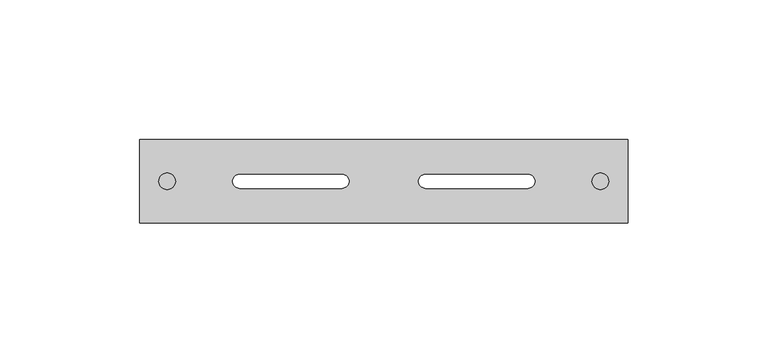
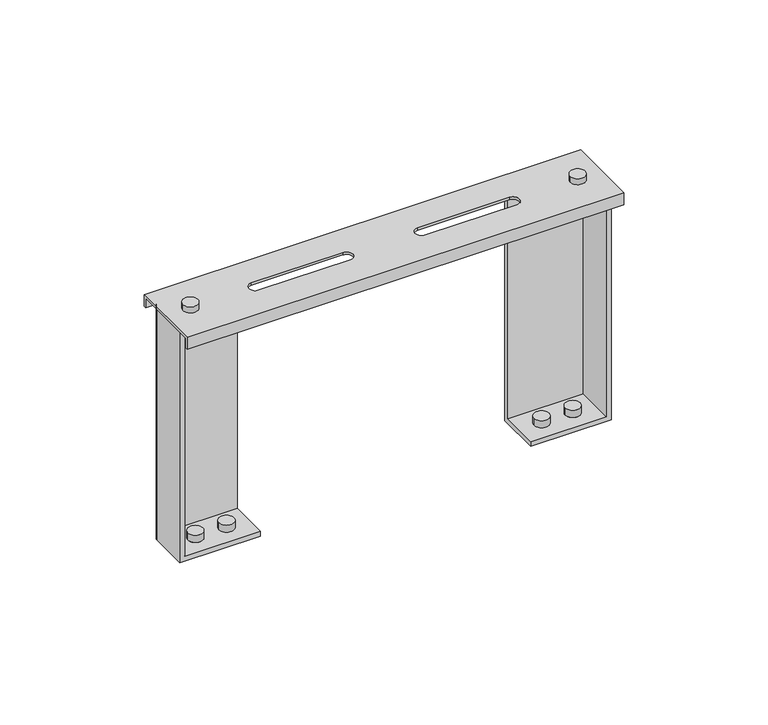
"""IFC4 building model written with IfcOpenShell, lengths in millimetres: cable carrier fitting geometry, CCT_Hyperline_FBTR_EFS_Опора_для_установки_оптического_лотка : Опора для установки оптического лотка."""

from ifc_helpers import new_model, si_unit, point, frame, frame_2d, origin, place, context, project, spatial, polyline, circle_curve, trimmed, segment, composite_curve, outline, extrude, source, transform, mapped, element, save
from ifc_brep_helpers import plane_surface, cylinder_surface, revolved_surface, advanced_brep


def cable_carrier_fitting_c6026d33(model_context):
    return source(origin(), model_context, "Body", "SolidModel", [
        advanced_brep(
        [(54.2573593, 10.0, 99.0), (54.2573593, 8.0, 99.0), (84.5, 8.0, 99.0), (84.5, -8.0, 99.0), (86.5, -8.0, 99.0), (86.5, 7.8786797, 99.0), (84.3786797, 10.0, 99.0), (86.5, 7.8786797, 2.0), (84.3786797, 10.0, 2.0), (84.5, 8.0, 2.0), (84.5, -8.0, 2.0), (54.2573593, 8.0, 2.0), (54.2573593, -8.0, 2.0), (66.1286617, 0.0, 2.0), (60.1286617, 0.0, 2.0), (78.6286976, 0.0, 2.0), (72.6286976, 0.0, 2.0), (54.2573593, -8.0, 0.0), (54.2573593, 10.0, 0.0), (84.3786797, 10.0, 0.0), (86.5, 7.8786797, 0.0), (86.5, -8.0, 0.0), (60.1286617, 0.0, 0.0), (66.1286617, 0.0, 0.0), (72.6286976, 0.0, 0.0), (78.6286976, 0.0, 0.0), (66.1286617, 0.0, 5.0), (60.1286617, 0.0, 5.0), (66.1286617, 0.0, -3.0), (60.1286617, 0.0, -3.0), (72.6286976, 0.0, 5.0), (78.6286976, 0.0, 5.0), (72.6286976, 0.0, -3.0), (78.6286976, 0.0, -3.0)],
        [
            (0, 1),
            (1, 2),
            (2, 3),
            (3, 4),
            (4, 5),
            (5, 6, circle_curve(frame((84.3786797, 7.8786797, 99.0), z_axis=(0.0, 0.0, 1.0), x_axis=(-1.0, 0.0, 0.0)), 2.1213203)),
            (6, 0),
            (5, 7),
            (7, 8, circle_curve(frame((84.3786797, 7.8786797, 2.0), z_axis=(0.0, 0.0, 1.0), x_axis=(-1.0, 0.0, 0.0)), 2.1213203)),
            (8, 6),
            (2, 9),
            (9, 10),
            (10, 3),
            (1, 11),
            (11, 9),
            (12, 10),
            (11, 12),
            (13, 14, circle_curve(frame((63.1286617, 0.0, 2.0), z_axis=(0.0, 0.0, -1.0), x_axis=(-1.0, 0.0, 0.0)), 3.0)),
            (14, 13, circle_curve(frame((63.1286617, 0.0, 2.0), z_axis=(0.0, 0.0, -1.0), x_axis=(-1.0, 0.0, 0.0)), 3.0)),
            (15, 16, circle_curve(frame((75.6286976, 0.0, 2.0), z_axis=(0.0, 0.0, -1.0), x_axis=(1.0, 0.0, 0.0)), 3.0)),
            (16, 15, circle_curve(frame((75.6286976, 0.0, 2.0), z_axis=(0.0, 0.0, -1.0), x_axis=(1.0, 0.0, 0.0)), 3.0)),
            (17, 18),
            (18, 19),
            (19, 20, circle_curve(frame((84.3786797, 7.8786797, 0.0), z_axis=(0.0, 0.0, -1.0), x_axis=(-1.0, 0.0, 0.0)), 2.1213203)),
            (20, 21),
            (21, 17),
            (22, 23, circle_curve(frame((63.1286617, 0.0, 0.0), z_axis=(0.0, 0.0, 1.0), x_axis=(-1.0, 0.0, 0.0)), 3.0)),
            (23, 22, circle_curve(frame((63.1286617, 0.0, 0.0), z_axis=(0.0, 0.0, 1.0), x_axis=(-1.0, 0.0, 0.0)), 3.0)),
            (24, 25, circle_curve(frame((75.6286976, 0.0, 0.0), z_axis=(0.0, 0.0, 1.0), x_axis=(1.0, 0.0, 0.0)), 3.0)),
            (25, 24, circle_curve(frame((75.6286976, 0.0, 0.0), z_axis=(0.0, 0.0, 1.0), x_axis=(1.0, 0.0, 0.0)), 3.0)),
            (17, 12),
            (0, 18),
            (8, 19),
            (7, 20),
            (4, 21),
            (26, 27, circle_curve(frame((63.1286617, 0.0, 5.0), z_axis=(0.0, 0.0, 1.0), x_axis=(-1.0, 0.0, 0.0)), 3.0)),
            (27, 26, circle_curve(frame((63.1286617, 0.0, 5.0), z_axis=(0.0, 0.0, 1.0), x_axis=(-1.0, 0.0, 0.0)), 3.0)),
            (28, 29, circle_curve(frame((63.1286617, 0.0, -3.0), z_axis=(0.0, 0.0, -1.0), x_axis=(-1.0, 0.0, 0.0)), 3.0)),
            (29, 28, circle_curve(frame((63.1286617, 0.0, -3.0), z_axis=(0.0, 0.0, -1.0), x_axis=(-1.0, 0.0, 0.0)), 3.0)),
            (27, 14),
            (13, 26),
            (28, 23),
            (22, 29),
            (30, 31, circle_curve(frame((75.6286976, 0.0, 5.0), z_axis=(0.0, 0.0, 1.0), x_axis=(1.0, 0.0, 0.0)), 3.0)),
            (31, 30, circle_curve(frame((75.6286976, 0.0, 5.0), z_axis=(0.0, 0.0, 1.0), x_axis=(1.0, 0.0, 0.0)), 3.0)),
            (32, 33, circle_curve(frame((75.6286976, 0.0, -3.0), z_axis=(0.0, 0.0, -1.0), x_axis=(1.0, 0.0, 0.0)), 3.0)),
            (33, 32, circle_curve(frame((75.6286976, 0.0, -3.0), z_axis=(0.0, 0.0, -1.0), x_axis=(1.0, 0.0, 0.0)), 3.0)),
            (30, 16),
            (15, 31),
            (33, 25),
            (24, 32),
        ],
        [
            plane_surface(frame((54.2573593, 8.0, 99.0), z_axis=(0.0, 0.0, 1.0), x_axis=(0.0, -1.0, 0.0))),
            cylinder_surface(frame((84.3786797, 7.8786797, 2.0), z_axis=(0.0, 0.0, 1.0), x_axis=(-1.0, 0.0, 0.0)), 2.1213203),
            plane_surface(frame((84.5, 8.0, 99.0), z_axis=(-1.0, 0.0, 0.0), x_axis=(0.0, 0.0, -1.0))),
            plane_surface(frame((54.2573593, 8.0, 99.0), z_axis=(0.0, -1.0, 0.0), x_axis=(0.0, 0.0, -1.0))),
            plane_surface(frame((86.5, -8.0, 2.0), z_axis=(0.0, 0.0, 1.0), x_axis=(1.0, 0.0, 0.0))),
            plane_surface(frame((86.5, -8.0, 0.0), z_axis=(0.0, 0.0, -1.0), x_axis=(-1.0, 0.0, 0.0))),
            plane_surface(frame((54.2573593, 10.0, 2.0), z_axis=(-1.0, 0.0, 0.0), x_axis=(0.0, 0.0, -1.0))),
            plane_surface(frame((84.3786797, 10.0, 2.0), z_axis=(0.0, 1.0, 0.0), x_axis=(0.0, 0.0, -1.0))),
            cylinder_surface(frame((84.3786797, 7.8786797, 0.0), z_axis=(0.0, 0.0, 1.0), x_axis=(-1.0, 0.0, 0.0)), 2.1213203),
            plane_surface(frame((86.5, -8.0, 2.0), z_axis=(1.0, 0.0, 0.0), x_axis=(0.0, 0.0, -1.0))),
            plane_surface(frame((54.2573593, -8.0, 2.0), z_axis=(0.0, -1.0, 0.0), x_axis=(0.0, 0.0, -1.0))),
            plane_surface(frame((60.1286617, 0.0, 5.0), z_axis=(0.0, 0.0, 1.0), x_axis=(0.0, -1.0, 0.0))),
            plane_surface(frame((60.1286617, 0.0, -3.0), z_axis=(0.0, 0.0, -1.0), x_axis=(0.0, 1.0, 0.0))),
            cylinder_surface(frame((63.1286617, 0.0, -3.0), z_axis=(0.0, 0.0, 1.0), x_axis=(-1.0, 0.0, 0.0)), 3.0),
            plane_surface(frame((78.6286976, 0.0, 5.0), z_axis=(0.0, 0.0, 1.0), x_axis=(0.0, 1.0, 0.0))),
            plane_surface(frame((78.6286976, 0.0, -3.0), z_axis=(0.0, 0.0, -1.0), x_axis=(0.0, -1.0, 0.0))),
            cylinder_surface(frame((75.6286976, 0.0, -3.0), z_axis=(0.0, 0.0, 1.0), x_axis=(1.0, 0.0, 0.0)), 3.0),
        ],
        [
            (0, [[1, 2, 3, 4, 5, 6, 7]]),
            (1, [[-6, 8, 9, 10]]),
            (2, [[-3, 11, 12, 13]]),
            (3, [[-2, 14, 15, -11]]),
            (4, [[16, -12, -15, 17], [18, 19], [20, 21]]),
            (5, [[22, 23, 24, 25, 26], [27, 28], [29, 30]]),
            (6, [[-22, 31, -17, -14, -1, 32]]),
            (7, [[-23, -32, -7, -10, 33]]),
            (8, [[-24, -33, -9, 34]]),
            (9, [[-25, -34, -8, -5, 35]]),
            (10, [[-26, -35, -4, -13, -16, -31]]),
            (11, [[36, 37]]),
            (12, [[38, 39]]),
            (13, [[-37, 40, -18, 41]]),
            (13, [[-38, 42, -27, 43]]),
            (13, [[-36, -41, -19, -40]]),
            (13, [[-39, -43, -28, -42]]),
            (14, [[44, 45]]),
            (15, [[46, 47]]),
            (16, [[-44, 48, -20, 49]]),
            (16, [[-47, 50, -29, 51]]),
            (16, [[-45, -49, -21, -48]]),
            (16, [[-46, -51, -30, -50]]),
        ],
    ),
        advanced_brep(
        [(-54.2573593, 10.0, 99.0), (-84.3786797, 10.0, 99.0), (-86.5, 7.8786797, 99.0), (-86.5, -8.0, 99.0), (-84.5, -8.0, 99.0), (-84.5, 8.0, 99.0), (-54.2573593, 8.0, 99.0), (-84.3786797, 10.0, 2.0), (-86.5, 7.8786797, 2.0), (-84.5, -8.0, 2.0), (-84.5, 8.0, 2.0), (-54.2573593, 8.0, 2.0), (-54.2573593, -8.0, 2.0), (-72.6286976, 0.0, 2.0), (-78.6286976, 0.0, 2.0), (-60.1286617, 0.0, 2.0), (-66.1286617, 0.0, 2.0), (-54.2573593, -8.0, 0.0), (-86.5, -8.0, 0.0), (-86.5, 7.8786797, 0.0), (-84.3786797, 10.0, 0.0), (-54.2573593, 10.0, 0.0), (-66.1286617, 0.0, 0.0), (-60.1286617, 0.0, 0.0), (-78.6286976, 0.0, 0.0), (-72.6286976, 0.0, 0.0), (-72.6286976, 0.0, 5.0), (-78.6286976, 0.0, 5.0), (-72.6286976, 0.0, -3.0), (-78.6286976, 0.0, -3.0), (-66.1286617, 0.0, 5.0), (-60.1286617, 0.0, 5.0), (-66.1286617, 0.0, -3.0), (-60.1286617, 0.0, -3.0)],
        [
            (0, 1),
            (1, 2, circle_curve(frame((-84.3786797, 7.8786797, 99.0), z_axis=(0.0, 0.0, 1.0), x_axis=(1.0, 0.0, 0.0)), 2.1213203)),
            (2, 3),
            (3, 4),
            (4, 5),
            (5, 6),
            (6, 0),
            (1, 7),
            (7, 8, circle_curve(frame((-84.3786797, 7.8786797, 2.0), z_axis=(0.0, 0.0, 1.0), x_axis=(1.0, 0.0, 0.0)), 2.1213203)),
            (8, 2),
            (4, 9),
            (9, 10),
            (10, 5),
            (10, 11),
            (11, 6),
            (12, 11),
            (9, 12),
            (13, 14, circle_curve(frame((-75.6286976, 0.0, 2.0), z_axis=(0.0, 0.0, -1.0), x_axis=(-1.0, 0.0, 0.0)), 3.0)),
            (14, 13, circle_curve(frame((-75.6286976, 0.0, 2.0), z_axis=(0.0, 0.0, -1.0), x_axis=(-1.0, 0.0, 0.0)), 3.0)),
            (15, 16, circle_curve(frame((-63.1286617, 0.0, 2.0), z_axis=(0.0, 0.0, -1.0), x_axis=(1.0, 0.0, 0.0)), 3.0)),
            (16, 15, circle_curve(frame((-63.1286617, 0.0, 2.0), z_axis=(0.0, 0.0, -1.0), x_axis=(1.0, 0.0, 0.0)), 3.0)),
            (17, 18),
            (18, 19),
            (19, 20, circle_curve(frame((-84.3786797, 7.8786797, 0.0), z_axis=(0.0, 0.0, -1.0), x_axis=(1.0, 0.0, 0.0)), 2.1213203)),
            (20, 21),
            (21, 17),
            (22, 23, circle_curve(frame((-63.1286617, 0.0, 0.0), z_axis=(0.0, 0.0, 1.0), x_axis=(1.0, 0.0, 0.0)), 3.0)),
            (23, 22, circle_curve(frame((-63.1286617, 0.0, 0.0), z_axis=(0.0, 0.0, 1.0), x_axis=(1.0, 0.0, 0.0)), 3.0)),
            (24, 25, circle_curve(frame((-75.6286976, 0.0, 0.0), z_axis=(0.0, 0.0, 1.0), x_axis=(-1.0, 0.0, 0.0)), 3.0)),
            (25, 24, circle_curve(frame((-75.6286976, 0.0, 0.0), z_axis=(0.0, 0.0, 1.0), x_axis=(-1.0, 0.0, 0.0)), 3.0)),
            (21, 0),
            (12, 17),
            (20, 7),
            (19, 8),
            (18, 3),
            (26, 27, circle_curve(frame((-75.6286976, 0.0, 5.0), z_axis=(0.0, 0.0, 1.0), x_axis=(-1.0, 0.0, 0.0)), 3.0)),
            (27, 26, circle_curve(frame((-75.6286976, 0.0, 5.0), z_axis=(0.0, 0.0, 1.0), x_axis=(-1.0, 0.0, 0.0)), 3.0)),
            (28, 29, circle_curve(frame((-75.6286976, 0.0, -3.0), z_axis=(0.0, 0.0, -1.0), x_axis=(-1.0, 0.0, 0.0)), 3.0)),
            (29, 28, circle_curve(frame((-75.6286976, 0.0, -3.0), z_axis=(0.0, 0.0, -1.0), x_axis=(-1.0, 0.0, 0.0)), 3.0)),
            (27, 14),
            (13, 26),
            (28, 25),
            (24, 29),
            (30, 31, circle_curve(frame((-63.1286617, 0.0, 5.0), z_axis=(0.0, 0.0, 1.0), x_axis=(1.0, 0.0, 0.0)), 3.0)),
            (31, 30, circle_curve(frame((-63.1286617, 0.0, 5.0), z_axis=(0.0, 0.0, 1.0), x_axis=(1.0, 0.0, 0.0)), 3.0)),
            (32, 33, circle_curve(frame((-63.1286617, 0.0, -3.0), z_axis=(0.0, 0.0, -1.0), x_axis=(1.0, 0.0, 0.0)), 3.0)),
            (33, 32, circle_curve(frame((-63.1286617, 0.0, -3.0), z_axis=(0.0, 0.0, -1.0), x_axis=(1.0, 0.0, 0.0)), 3.0)),
            (30, 16),
            (15, 31),
            (33, 23),
            (22, 32),
        ],
        [
            plane_surface(frame((-84.3786797, 10.0, 99.0), z_axis=(0.0, 0.0, 1.0), x_axis=(-1.0, 0.0, 0.0))),
            cylinder_surface(frame((-84.3786797, 7.8786797, 2.0), z_axis=(0.0, 0.0, 1.0), x_axis=(1.0, 0.0, 0.0)), 2.1213203),
            plane_surface(frame((-84.5, -8.0, 99.0), z_axis=(1.0, 0.0, 0.0), x_axis=(0.0, 0.0, -1.0))),
            plane_surface(frame((-84.5, 8.0, 99.0), z_axis=(0.0, -1.0, 0.0), x_axis=(0.0, 0.0, -1.0))),
            plane_surface(frame((-54.2573593, -8.0, 2.0), z_axis=(0.0, 0.0, 1.0), x_axis=(0.0, 1.0, 0.0))),
            plane_surface(frame((-54.2573593, -8.0, 0.0), z_axis=(0.0, 0.0, -1.0), x_axis=(0.0, -1.0, 0.0))),
            plane_surface(frame((-54.2573593, -8.0, 2.0), z_axis=(1.0, 0.0, 0.0), x_axis=(0.0, 0.0, -1.0))),
            plane_surface(frame((-54.2573593, 10.0, 2.0), z_axis=(0.0, 1.0, 0.0), x_axis=(0.0, 0.0, -1.0))),
            cylinder_surface(frame((-84.3786797, 7.8786797, 0.0), z_axis=(0.0, 0.0, 1.0), x_axis=(1.0, 0.0, 0.0)), 2.1213203),
            plane_surface(frame((-86.5, 7.8786797, 2.0), z_axis=(-1.0, 0.0, 0.0), x_axis=(0.0, 0.0, -1.0))),
            plane_surface(frame((-86.5, -8.0, 2.0), z_axis=(0.0, -1.0, 0.0), x_axis=(0.0, 0.0, -1.0))),
            plane_surface(frame((-78.6286976, 0.0, 5.0), z_axis=(0.0, 0.0, 1.0), x_axis=(0.0, -1.0, 0.0))),
            plane_surface(frame((-78.6286976, 0.0, -3.0), z_axis=(0.0, 0.0, -1.0), x_axis=(0.0, 1.0, 0.0))),
            cylinder_surface(frame((-75.6286976, 0.0, -3.0), z_axis=(0.0, 0.0, 1.0), x_axis=(-1.0, 0.0, 0.0)), 3.0),
            plane_surface(frame((-60.1286617, 0.0, 5.0), z_axis=(0.0, 0.0, 1.0), x_axis=(0.0, 1.0, 0.0))),
            plane_surface(frame((-60.1286617, 0.0, -3.0), z_axis=(0.0, 0.0, -1.0), x_axis=(0.0, -1.0, 0.0))),
            cylinder_surface(frame((-63.1286617, 0.0, -3.0), z_axis=(0.0, 0.0, 1.0), x_axis=(1.0, 0.0, 0.0)), 3.0),
        ],
        [
            (0, [[1, 2, 3, 4, 5, 6, 7]]),
            (1, [[-2, 8, 9, 10]]),
            (2, [[-5, 11, 12, 13]]),
            (3, [[-6, -13, 14, 15]]),
            (4, [[16, -14, -12, 17], [18, 19], [20, 21]]),
            (5, [[22, 23, 24, 25, 26], [27, 28], [29, 30]]),
            (6, [[-26, 31, -7, -15, -16, 32]]),
            (7, [[-25, 33, -8, -1, -31]]),
            (8, [[-24, 34, -9, -33]]),
            (9, [[-23, 35, -3, -10, -34]]),
            (10, [[-22, -32, -17, -11, -4, -35]]),
            (11, [[36, 37]]),
            (12, [[38, 39]]),
            (13, [[-37, 40, -18, 41]]),
            (13, [[-38, 42, -29, 43]]),
            (13, [[-36, -41, -19, -40]]),
            (13, [[-39, -43, -30, -42]]),
            (14, [[44, 45]]),
            (15, [[46, 47]]),
            (16, [[-44, 48, -20, 49]]),
            (16, [[-47, 50, -27, 51]]),
            (16, [[-45, -49, -21, -48]]),
            (16, [[-46, -51, -28, -50]]),
        ],
    ),
        extrude(outline(composite_curve([segment(trimmed(circle_curve(frame_2d((-77.6286976, 0.0)), 3.0), [point((-74.6286976, 0.0))], [point((-80.6286976, 0.0))], False, "CARTESIAN"), True, "CONTINUOUS"), segment(trimmed(circle_curve(frame_2d((-77.6286976, 0.0)), 3.0), [point((-80.6286976, 0.0))], [point((-74.6286976, 0.0))], False, "CARTESIAN"), True, "CONTINUOUS")], self_intersect=False)), frame((0.0, 0.0, 100.0), z_axis=(0.0, 0.0, 1.0), x_axis=(1.0, 0.0, 0.0)), (0.0, 0.0, 1.0), 2.5),
        extrude(outline(composite_curve([segment(trimmed(circle_curve(frame_2d((77.6286976, 0.0)), 3.0), [point((74.6286976, 0.0))], [point((80.6286976, 0.0))], False, "CARTESIAN"), True, "CONTINUOUS"), segment(trimmed(circle_curve(frame_2d((77.6286976, 0.0)), 3.0), [point((80.6286976, 0.0))], [point((74.6286976, 0.0))], False, "CARTESIAN"), True, "CONTINUOUS")], self_intersect=False)), frame((0.0, 0.0, 100.0), z_axis=(0.0, 0.0, 1.0), x_axis=(1.0, 0.0, 0.0)), (0.0, 0.0, 1.0), 2.5),
        advanced_brep(
        [(-87.5, -15.0, 100.0), (-87.5, 15.0, 100.0), (-87.5, 15.0, 95.0), (-87.5, 14.0, 95.0), (-87.5, 14.0, 99.0), (-87.5, -14.0, 99.0), (-87.5, -14.0, 95.0), (-87.5, -15.0, 95.0), (87.5, -15.0, 100.0), (87.5, 15.0, 100.0), (-51.6666667, 2.5, 100.0), (-15.0, 2.5, 100.0), (-15.0, -2.5, 100.0), (-51.6666667, -2.5, 100.0), (15.0, 2.5, 100.0), (51.6666667, 2.5, 100.0), (51.6666667, -2.5, 100.0), (15.0, -2.5, 100.0), (87.5, 14.0, 99.0), (87.5, -14.0, 99.0), (-15.0, 2.5, 99.0), (-51.6666667, 2.5, 99.0), (-51.6666667, -2.5, 99.0), (-15.0, -2.5, 99.0), (51.6666667, 2.5, 99.0), (15.0, 2.5, 99.0), (15.0, -2.5, 99.0), (51.6666667, -2.5, 99.0), (87.5, -14.0, 95.0), (87.5, -15.0, 95.0), (87.5, 14.0, 95.0), (87.5, 15.0, 95.0)],
        [
            (0, 1),
            (1, 2),
            (2, 3),
            (3, 4),
            (4, 5),
            (5, 6),
            (6, 7),
            (7, 0),
            (0, 8),
            (8, 9),
            (9, 1),
            (10, 11),
            (11, 12, circle_curve(frame((-15.0, 0.0, 100.0), z_axis=(0.0, 0.0, -1.0), x_axis=(1.0, 0.0, 0.0)), 2.5)),
            (12, 13),
            (13, 10, circle_curve(frame((-51.6666667, 0.0, 100.0), z_axis=(0.0, 0.0, -1.0), x_axis=(1.0, 0.0, 0.0)), 2.5)),
            (14, 15),
            (15, 16, circle_curve(frame((51.6666667, 0.0, 100.0), z_axis=(0.0, 0.0, -1.0), x_axis=(1.0, 0.0, 0.0)), 2.5)),
            (16, 17),
            (17, 14, circle_curve(frame((15.0, 0.0, 100.0), z_axis=(0.0, 0.0, -1.0), x_axis=(1.0, 0.0, 0.0)), 2.5)),
            (4, 18),
            (18, 19),
            (19, 5),
            (20, 21),
            (21, 22, circle_curve(frame((-51.6666667, 0.0, 99.0), z_axis=(0.0, 0.0, 1.0), x_axis=(1.0, 0.0, 0.0)), 2.5)),
            (22, 23),
            (23, 20, circle_curve(frame((-15.0, 0.0, 99.0), z_axis=(0.0, 0.0, 1.0), x_axis=(1.0, 0.0, 0.0)), 2.5)),
            (24, 25),
            (25, 26, circle_curve(frame((15.0, 0.0, 99.0), z_axis=(0.0, 0.0, 1.0), x_axis=(1.0, 0.0, 0.0)), 2.5)),
            (26, 27),
            (27, 24, circle_curve(frame((51.6666667, 0.0, 99.0), z_axis=(0.0, 0.0, 1.0), x_axis=(1.0, 0.0, 0.0)), 2.5)),
            (19, 28),
            (28, 6),
            (28, 29),
            (29, 7),
            (29, 8),
            (18, 30),
            (30, 31),
            (31, 9),
            (31, 2),
            (30, 3),
            (10, 21),
            (20, 11),
            (13, 22),
            (12, 23),
            (14, 25),
            (24, 15),
            (17, 26),
            (16, 27),
        ],
        [
            plane_surface(frame((-87.5, -60.0, 24.0), z_axis=(-1.0, 0.0, 0.0), x_axis=(0.0, 0.0, 1.0))),
            plane_surface(frame((-87.5, -15.0, 100.0), z_axis=(0.0, 0.0, 1.0), x_axis=(1.0, 0.0, 0.0))),
            plane_surface(frame((-87.5, 14.0, 99.0), z_axis=(0.0, 0.0, -1.0), x_axis=(1.0, 0.0, 0.0))),
            plane_surface(frame((-87.5, -14.0, 99.0), z_axis=(0.0, 1.0, 0.0), x_axis=(1.0, 0.0, 0.0))),
            plane_surface(frame((-87.5, -14.0, 95.0), z_axis=(0.0, 0.0, -1.0), x_axis=(1.0, 0.0, 0.0))),
            plane_surface(frame((-87.5, -15.0, 95.0), z_axis=(0.0, -1.0, 0.0), x_axis=(1.0, 0.0, 0.0))),
            plane_surface(frame((87.5, -60.0, 24.0), z_axis=(1.0, 0.0, 0.0), x_axis=(0.0, 0.0, 1.0))),
            plane_surface(frame((-87.5, 15.0, 100.0), z_axis=(0.0, 1.0, 0.0), x_axis=(1.0, 0.0, 0.0))),
            plane_surface(frame((-87.5, 15.0, 95.0), z_axis=(0.0, 0.0, -1.0), x_axis=(1.0, 0.0, 0.0))),
            plane_surface(frame((-87.5, 14.0, 95.0), z_axis=(0.0, -1.0, 0.0), x_axis=(1.0, 0.0, 0.0))),
            plane_surface(frame((-15.0, 2.5, 100.0), z_axis=(0.0, -1.0, 0.0), x_axis=(0.0, 0.0, -1.0))),
            revolved_surface(polyline([(-49.1666667, 0.0, 100.0), (-49.1666667, 0.0, 99.0)]), (-51.6666667, 0.0, 99.0), (0.0, 0.0, 1.0)),
            plane_surface(frame((-51.6666667, -2.5, 100.0), z_axis=(0.0, 1.0, 0.0), x_axis=(0.0, 0.0, -1.0))),
            revolved_surface(polyline([(-12.5, 0.0, 100.0), (-12.5, 0.0, 99.0)]), (-15.0, 0.0, 99.0), (0.0, 0.0, 1.0)),
            plane_surface(frame((51.6666667, 2.5, 100.0), z_axis=(0.0, -1.0, 0.0), x_axis=(0.0, 0.0, -1.0))),
            revolved_surface(polyline([(17.5, 0.0, 100.0), (17.5, 0.0, 99.0)]), (15.0, 0.0, 99.0), (0.0, 0.0, 1.0)),
            plane_surface(frame((15.0, -2.5, 100.0), z_axis=(0.0, 1.0, 0.0), x_axis=(0.0, 0.0, -1.0))),
            revolved_surface(polyline([(54.1666667, 0.0, 100.0), (54.1666667, 0.0, 99.0)]), (51.6666667, 0.0, 99.0), (0.0, 0.0, 1.0)),
        ],
        [
            (0, [[1, 2, 3, 4, 5, 6, 7, 8]]),
            (1, [[-1, 9, 10, 11], [12, 13, 14, 15], [16, 17, 18, 19]]),
            (2, [[-5, 20, 21, 22], [23, 24, 25, 26], [27, 28, 29, 30]]),
            (3, [[-6, -22, 31, 32]]),
            (4, [[-7, -32, 33, 34]]),
            (5, [[-8, -34, 35, -9]]),
            (6, [[-10, -35, -33, -31, -21, 36, 37, 38]]),
            (7, [[-2, -11, -38, 39]]),
            (8, [[-3, -39, -37, 40]]),
            (9, [[-4, -40, -36, -20]]),
            (10, [[41, -23, 42, -12]]),
            (11, [[-41, -15, 43, -24]]),
            (12, [[-43, -14, 44, -25]]),
            (13, [[-42, -26, -44, -13]]),
            (14, [[45, -27, 46, -16]]),
            (15, [[-45, -19, 47, -28]]),
            (16, [[-47, -18, 48, -29]]),
            (17, [[-46, -30, -48, -17]]),
        ],
    ),
    ])


if __name__ == "__main__":
    model = new_model("IFC4")
    model_context = context("Model", 3, world=origin())
    ifc_project = project(units=[si_unit("LENGTHUNIT", "METRE", prefix="MILLI")], contexts=[model_context])
    site = spatial("IfcSite", under=ifc_project)
    building = spatial("IfcBuilding", under=site)
    placement = place(None, origin())
    cable_carrier_fitting_shape = cable_carrier_fitting_c6026d33(model_context)
    element("IfcCableCarrierFitting", 1, ObjectType="CCT_Hyperline_FBTR_EFS_Опора_для_установки_оптического_лотка : Опора для установки оптического лотка", at=placement, inside=building, context=model_context, shape_type="MappedRepresentation", body=[
        mapped(cable_carrier_fitting_shape, transform((0.0, 0.0, 0.0), x_axis=(1.0, 0.0, 0.0), y_axis=(0.0, 1.0, 0.0), z_axis=(0.0, 0.0, 1.0))),
    ])
    save(model, "model.ifc")
